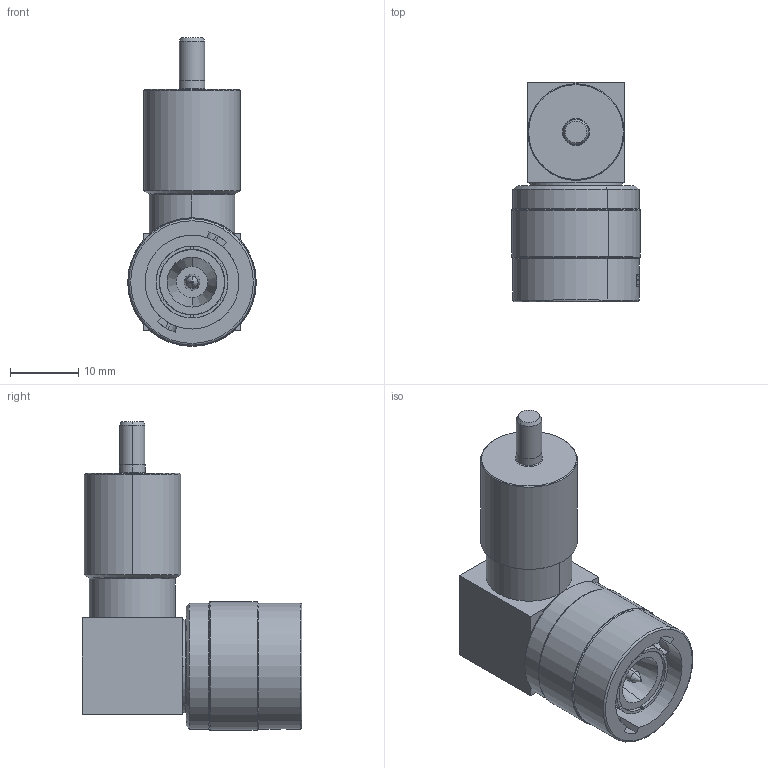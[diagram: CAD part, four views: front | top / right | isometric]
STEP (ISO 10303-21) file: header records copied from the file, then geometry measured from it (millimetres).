
FILE_DESCRIPTION((''),'2;1');
FILE_NAME('CCR522','2019-12-02T16:42:34',('paul.nurczyk'),('Carlisle Interconnect Technologies'),'CREO PARAMETRIC BY PTC INC, 2017260','CREO PARAMETRIC BY PTC INC, 2017260','');
FILE_SCHEMA(('CONFIG_CONTROL_DESIGN'));
Length unit declared in the file: inch
Products named in the file (1): CCR522
Bounding box: 18.9 x 32.28 x 45.38 mm (x, y, z)
Volume: 10014.2 mm3; surface area: 4850.4 mm2
Topology: 1 solids, 1 shells, 439 faces, 1216 edges, 800 vertices
Faces by surface type: bspline 236, plane 135, cylinder 40, cone 20, torus 8
Entity records: 19495 total; most frequent: CARTESIAN_POINT 8462, ORIENTED_EDGE 2432, DIRECTION 2151, EDGE_CURVE 1216, VERTEX_POINT 800, AXIS2_PLACEMENT_3D 779, VECTOR 593, LINE 593
